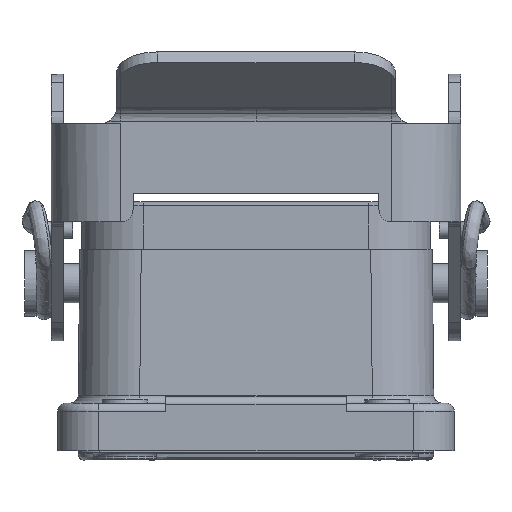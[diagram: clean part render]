
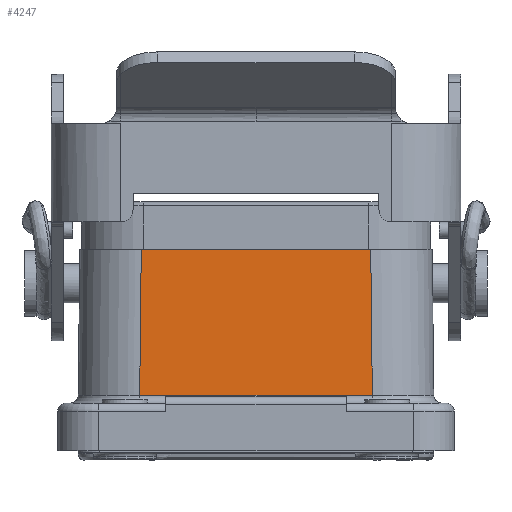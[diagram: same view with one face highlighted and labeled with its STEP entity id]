
A CAD part, left-side view. The second image highlights one B-rep face of the part: STEP entity #4247.
In plain terms, the highlighted planar face has unit normal (-1, 0, 0.026).
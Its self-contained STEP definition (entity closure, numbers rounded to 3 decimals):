
#3830=PLANE('',#14048);
#4247=ADVANCED_FACE('',(#4913),#3830,.T.);
#4913=FACE_OUTER_BOUND('',#5424,.T.);
#5424=EDGE_LOOP('',(#8775,#8776,#8777,#8778));
#6213=LINE('',#23178,#6908);
#6218=LINE('',#23191,#6913);
#6219=LINE('',#23193,#6914);
#6220=LINE('',#23195,#6915);
#6908=VECTOR('',#15635,1.);
#6913=VECTOR('',#15646,1.);
#6914=VECTOR('',#15647,1.);
#6915=VECTOR('',#15648,1.);
#8775=ORIENTED_EDGE('',*,*,#11940,.T.);
#8776=ORIENTED_EDGE('',*,*,#11941,.T.);
#8777=ORIENTED_EDGE('',*,*,#11942,.T.);
#8778=ORIENTED_EDGE('',*,*,#11933,.F.);
#10717=VERTEX_POINT('',#23177);
#10718=VERTEX_POINT('',#23179);
#10723=VERTEX_POINT('',#23192);
#10724=VERTEX_POINT('',#23194);
#11933=EDGE_CURVE('',#10717,#10718,#6213,.T.);
#11940=EDGE_CURVE('',#10717,#10723,#6218,.T.);
#11941=EDGE_CURVE('',#10723,#10724,#6219,.T.);
#11942=EDGE_CURVE('',#10724,#10718,#6220,.T.);
#14048=AXIS2_PLACEMENT_3D('',#23196,#15649,#15650);
#15635=DIRECTION('',(0.,-1.,0.));
#15646=DIRECTION('',(-0.026,0.011,-1.));
#15647=DIRECTION('',(0.,-1.,0.));
#15648=DIRECTION('',(0.026,0.011,1.));
#15649=DIRECTION('',(-1.,0.,0.026));
#15650=DIRECTION('',(0.026,0.,1.));
#23177=CARTESIAN_POINT('',(-46.55,14.002,5.7));
#23178=CARTESIAN_POINT('',(-46.55,-21.7,5.7));
#23179=CARTESIAN_POINT('',(-46.55,-14.002,5.7));
#23191=CARTESIAN_POINT('',(-47.043,14.203,-13.13));
#23192=CARTESIAN_POINT('',(-47.015,14.191,-12.076));
#23193=CARTESIAN_POINT('',(-47.015,-14.202,-12.076));
#23194=CARTESIAN_POINT('',(-47.015,-14.191,-12.076));
#23195=CARTESIAN_POINT('',(-46.552,-14.003,5.62));
#23196=CARTESIAN_POINT('',(-46.55,0.,5.7));
